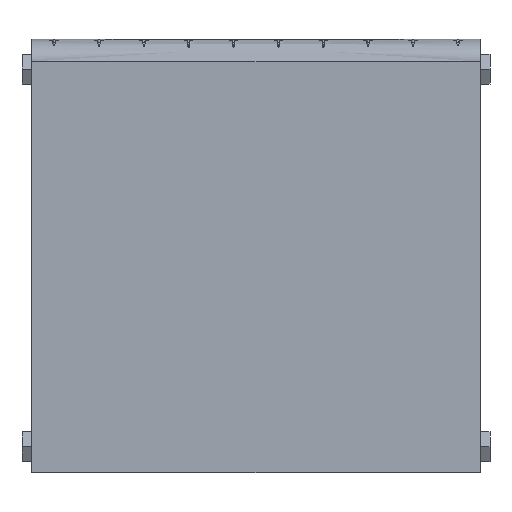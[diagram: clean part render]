
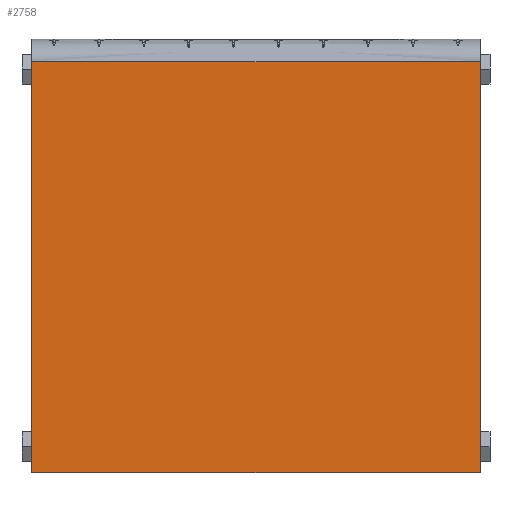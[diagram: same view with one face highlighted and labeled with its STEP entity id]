
A CAD part, front view. The second image highlights one B-rep face of the part: STEP entity #2758.
In plain terms, the highlighted planar face has unit normal (0, -1, 0).
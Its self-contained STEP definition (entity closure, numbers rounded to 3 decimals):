
#416=FACE_OUTER_BOUND('',#583,.T.);
#583=EDGE_LOOP('',(#1786,#1787,#1788,#1789));
#757=LINE('',#4102,#966);
#762=LINE('',#4113,#971);
#764=LINE('',#4156,#973);
#765=LINE('',#4158,#974);
#966=VECTOR('',#3256,304.8);
#971=VECTOR('',#3263,304.8);
#973=VECTOR('',#3267,304.8);
#974=VECTOR('',#3270,304.8);
#1178=VERTEX_POINT('',#4099);
#1179=VERTEX_POINT('',#4101);
#1183=VERTEX_POINT('',#4110);
#1184=VERTEX_POINT('',#4112);
#1404=EDGE_CURVE('',#1178,#1179,#757,.T.);
#1409=EDGE_CURVE('',#1183,#1184,#762,.T.);
#1412=EDGE_CURVE('',#1184,#1178,#764,.T.);
#1413=EDGE_CURVE('',#1183,#1179,#765,.T.);
#1786=ORIENTED_EDGE('',*,*,#1404,.F.);
#1787=ORIENTED_EDGE('',*,*,#1412,.F.);
#1788=ORIENTED_EDGE('',*,*,#1409,.F.);
#1789=ORIENTED_EDGE('',*,*,#1413,.T.);
#2518=PLANE('',#2935);
#2758=ADVANCED_FACE('',(#416),#2518,.T.);
#2935=AXIS2_PLACEMENT_3D('',#4157,#3268,#3269);
#3256=DIRECTION('',(0.,0.,-1.));
#3263=DIRECTION('',(0.,0.,1.));
#3267=DIRECTION('',(1.,0.,0.));
#3268=DIRECTION('center_axis',(0.,-1.,0.));
#3269=DIRECTION('ref_axis',(-1.,0.,0.));
#3270=DIRECTION('',(1.,0.,0.));
#4099=CARTESIAN_POINT('',(300.,-122.,550.));
#4101=CARTESIAN_POINT('',(300.,-122.,0.));
#4102=CARTESIAN_POINT('',(300.,-122.,550.));
#4110=CARTESIAN_POINT('',(-300.,-122.,0.));
#4112=CARTESIAN_POINT('',(-300.,-122.,550.));
#4113=CARTESIAN_POINT('',(-300.,-122.,0.));
#4156=CARTESIAN_POINT('',(300.,-122.,550.));
#4157=CARTESIAN_POINT('Origin',(300.,-122.,550.));
#4158=CARTESIAN_POINT('',(300.,-122.,0.));
